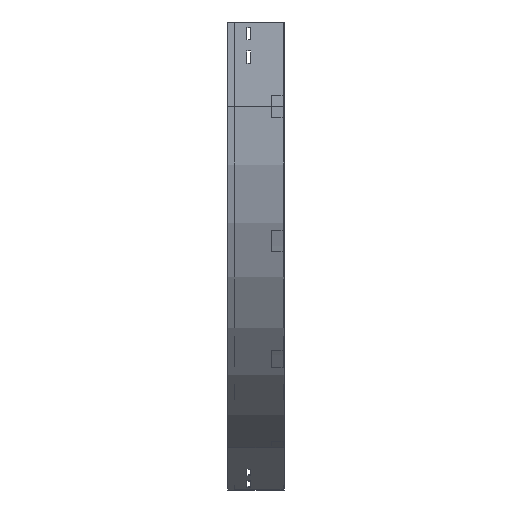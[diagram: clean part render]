
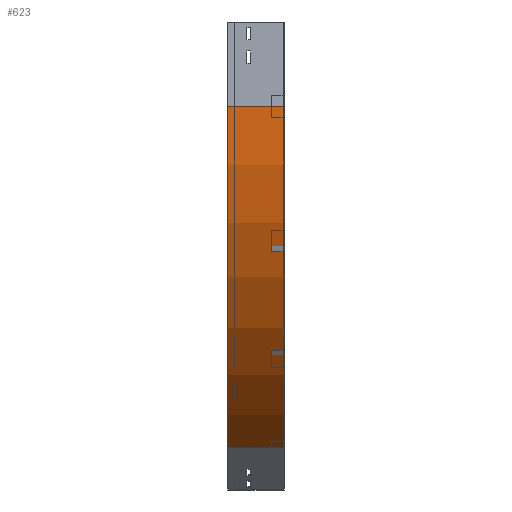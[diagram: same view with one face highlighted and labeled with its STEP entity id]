
A CAD part, left-side view. The second image highlights one B-rep face of the part: STEP entity #623.
In plain terms, the highlighted cylindrical face has radius 700 mm (diameter 1400 mm), a partial arc.
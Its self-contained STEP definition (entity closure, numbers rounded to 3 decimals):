
#61 = CARTESIAN_POINT ( 'NONE',  ( 350., 0., -756.218 ) ) ;
#87 = CARTESIAN_POINT ( 'NONE',  ( 0., 0., -150. ) ) ;
#251 = CARTESIAN_POINT ( 'NONE',  ( 0., 100., -150. ) ) ;
#412 = AXIS2_PLACEMENT_3D ( 'NONE', #1207, #3612, #895 ) ;
#414 = DIRECTION ( 'NONE',  ( 0., -1., 0. ) ) ;
#476 = CARTESIAN_POINT ( 'NONE',  ( 0., 0., -150. ) ) ;
#572 = VERTEX_POINT ( 'NONE', #476 ) ;
#577 = EDGE_CURVE ( 'NONE', #572, #3755, #3160, .T. ) ;
#621 = CYLINDRICAL_SURFACE ( 'NONE', #412, 700. ) ;
#623 = ADVANCED_FACE ( 'NONE', ( #3571 ), #621, .T. ) ;
#722 = ORIENTED_EDGE ( 'NONE', *, *, #577, .F. ) ;
#760 = CIRCLE ( 'NONE', #3624, 700. ) ;
#895 = DIRECTION ( 'NONE',  ( 0., 0., -1. ) ) ;
#1103 = DIRECTION ( 'NONE',  ( 0., -1., 0. ) ) ;
#1194 = CARTESIAN_POINT ( 'NONE',  ( 700., 100., -150. ) ) ;
#1207 = CARTESIAN_POINT ( 'NONE',  ( 700., 0., -150. ) ) ;
#1233 = VERTEX_POINT ( 'NONE', #2356 ) ;
#1264 = EDGE_CURVE ( 'NONE', #3568, #1233, #760, .T. ) ;
#1505 = DIRECTION ( 'NONE',  ( 0., -1., 0. ) ) ;
#1582 = CARTESIAN_POINT ( 'NONE',  ( 350., 0., -756.218 ) ) ;
#1634 = ORIENTED_EDGE ( 'NONE', *, *, #1264, .T. ) ;
#1818 = VECTOR ( 'NONE', #1505, 1000. ) ;
#2047 = EDGE_CURVE ( 'NONE', #3568, #572, #2431, .T. ) ;
#2139 = LINE ( 'NONE', #61, #3526 ) ;
#2356 = CARTESIAN_POINT ( 'NONE',  ( 350., 100., -756.218 ) ) ;
#2431 = LINE ( 'NONE', #87, #1818 ) ;
#2516 = ORIENTED_EDGE ( 'NONE', *, *, #2531, .T. ) ;
#2531 = EDGE_CURVE ( 'NONE', #1233, #3755, #2139, .T. ) ;
#2557 = ORIENTED_EDGE ( 'NONE', *, *, #2047, .F. ) ;
#2966 = DIRECTION ( 'NONE',  ( -1., 0., 0. ) ) ;
#3131 = EDGE_LOOP ( 'NONE', ( #722, #2557, #1634, #2516 ) ) ;
#3160 = CIRCLE ( 'NONE', #3787, 700. ) ;
#3200 = DIRECTION ( 'NONE',  ( -1., 0., 0. ) ) ;
#3248 = DIRECTION ( 'NONE',  ( 0., -1., 0. ) ) ;
#3498 = CARTESIAN_POINT ( 'NONE',  ( 700., 0., -150. ) ) ;
#3526 = VECTOR ( 'NONE', #414, 1000. ) ;
#3568 = VERTEX_POINT ( 'NONE', #251 ) ;
#3571 = FACE_OUTER_BOUND ( 'NONE', #3131, .T. ) ;
#3612 = DIRECTION ( 'NONE',  ( 0., -1., 0. ) ) ;
#3624 = AXIS2_PLACEMENT_3D ( 'NONE', #1194, #3248, #2966 ) ;
#3755 = VERTEX_POINT ( 'NONE', #1582 ) ;
#3787 = AXIS2_PLACEMENT_3D ( 'NONE', #3498, #1103, #3200 ) ;
